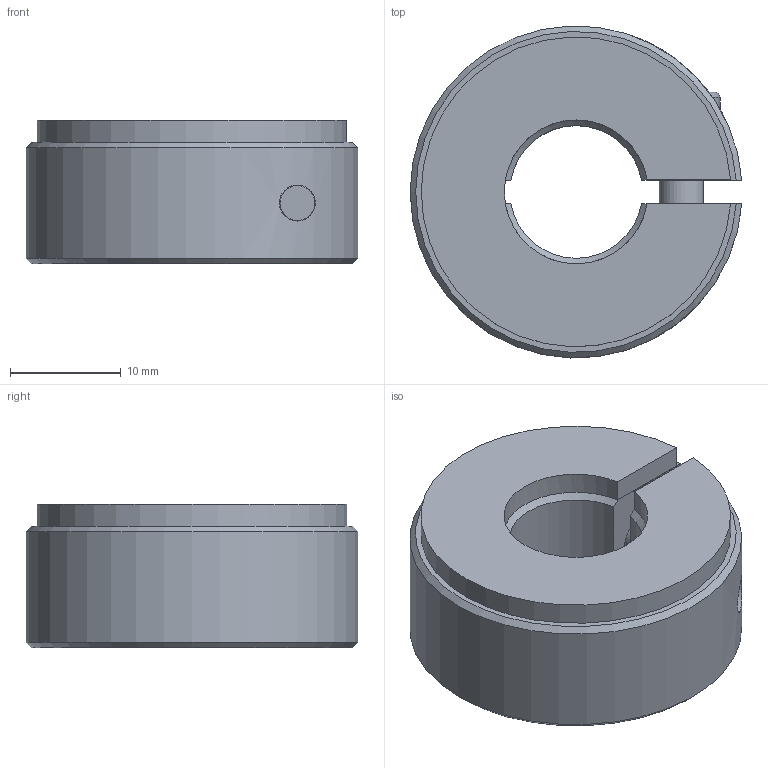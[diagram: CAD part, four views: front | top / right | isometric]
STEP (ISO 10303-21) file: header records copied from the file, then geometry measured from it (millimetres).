
FILE_DESCRIPTION( ( 'STEP AP203' ), '1' );
FILE_NAME( 'C:/Temp/Ganter_Step_05_03_2020/data/3_2/gn7062_3/Semi-split Stainless Steel-Set collar GN 7062.3-30-B12-NI.stp', '2020-03-13T05:40:22', ( 'License CC BY-ND 4.0' ), ( 'CADENAS' ), ' ', 'PARTsolutions', ' ' );
FILE_SCHEMA( ( 'CONFIG_CONTROL_DESIGN' ) );
Length unit declared in the file: millimetre
Products named in the file (1): _Semi-split Stainless Steel-Set collar GN 7062.3-30-B12-NI
Bounding box: 29.96 x 29.98 x 13 mm (x, y, z)
Volume: 6939.6 mm3; surface area: 3454 mm2
Topology: 1 solids, 1 shells, 40 faces, 95 edges, 62 vertices
Faces by surface type: plane 21, cylinder 11, cone 7, torus 1
Full cylindrical faces by diameter (mm): 3.242 x1, 4 x1, 4.4 x1, 7 x1, 7.5 x1
Entity records: 1274 total; most frequent: CARTESIAN_POINT 337, DIRECTION 184, ORIENTED_EDGE 172, EDGE_CURVE 86, AXIS2_PLACEMENT_3D 71, VERTEX_POINT 60, EDGE_LOOP 54, FACE_OUTER_BOUND 46
